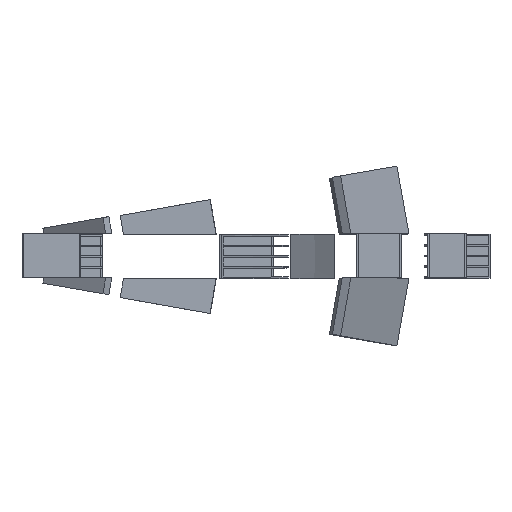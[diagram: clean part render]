
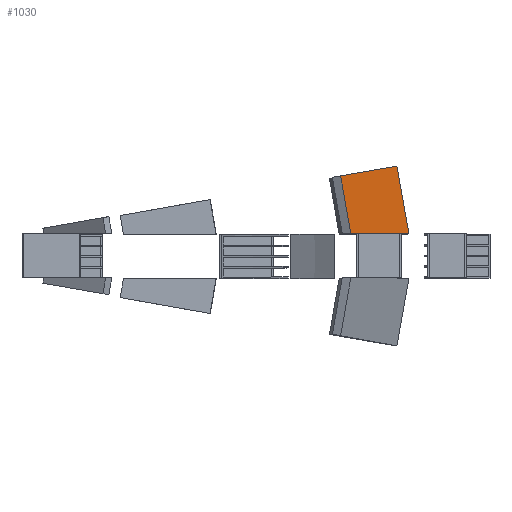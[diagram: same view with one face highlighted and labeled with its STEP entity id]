
A CAD part, top view. The second image highlights one B-rep face of the part: STEP entity #1030.
In plain terms, the highlighted planar face has unit normal (0.863, 0.152, 0.482).
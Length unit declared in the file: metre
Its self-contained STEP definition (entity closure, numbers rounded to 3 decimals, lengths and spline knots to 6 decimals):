
#1030 = ADVANCED_FACE('',(#1031),#1044,.T.);
#1031 = FACE_BOUND('',#1032,.T.);
#1032 = EDGE_LOOP('',(#1033,#1065,#1090,#1115));
#1033 = ORIENTED_EDGE('',*,*,#1034,.F.);
#1034 = EDGE_CURVE('',#1035,#1037,#1039,.T.);
#1035 = VERTEX_POINT('',#1036);
#1036 = CARTESIAN_POINT('',(14.162439,0.67455,5.219307));
#1037 = VERTEX_POINT('',#1038);
#1038 = CARTESIAN_POINT('',(13.850744,2.44226,
    5.219307));
#1039 = SURFACE_CURVE('',#1040,(#1043,#1054),.PCURVE_S1.);
#1040 = B_SPLINE_CURVE_WITH_KNOTS('',1,(#1041,#1042),.UNSPECIFIED.,.F.,
  .F.,(2,2),(0.,1.926396),.PIECEWISE_BEZIER_KNOTS.);
#1041 = CARTESIAN_POINT('',(14.162439,0.67455,5.219307));
#1042 = CARTESIAN_POINT('',(13.850744,2.44226,
    5.219307));
#1043 = PCURVE('',#1044,#1049);
#1044 = PLANE('',#1045);
#1045 = AXIS2_PLACEMENT_3D('',#1046,#1047,#1048);
#1046 = CARTESIAN_POINT('',(14.880918,1.634309,
    3.632197));
#1047 = DIRECTION('',(0.863,0.152,0.482));
#1048 = DIRECTION('',(0.485,0.025,-0.874)
  );
#1049 = DEFINITIONAL_REPRESENTATION('',(#1050),#1053);
#1050 = B_SPLINE_CURVE_WITH_KNOTS('',1,(#1051,#1052),.UNSPECIFIED.,.F.,
  .F.,(2,2),(0.,1.926396),.PIECEWISE_BEZIER_KNOTS.);
#1051 = CARTESIAN_POINT('',(-1.76,-0.927));
#1052 = CARTESIAN_POINT('',(-1.867,0.865));
#1053 = ( GEOMETRIC_REPRESENTATION_CONTEXT(2) 
PARAMETRIC_REPRESENTATION_CONTEXT() REPRESENTATION_CONTEXT('2D SPACE',''
  ) );
#1054 = PCURVE('',#1055,#1060);
#1055 = PLANE('',#1056);
#1056 = AXIS2_PLACEMENT_3D('',#1057,#1058,#1059);
#1057 = CARTESIAN_POINT('',(13.877652,1.547211,
    5.146083));
#1058 = DIRECTION('',(-0.486,-0.086,0.87
    ));
#1059 = DIRECTION('',(0.856,0.153,0.494));
#1060 = DEFINITIONAL_REPRESENTATION('',(#1061),#1064);
#1061 = B_SPLINE_CURVE_WITH_KNOTS('',1,(#1062,#1063),.UNSPECIFIED.,.F.,
  .F.,(2,2),(0.,1.926396),.PIECEWISE_BEZIER_KNOTS.);
#1062 = CARTESIAN_POINT('',(0.146,-0.909));
#1063 = CARTESIAN_POINT('',(0.15,0.886));
#1064 = ( GEOMETRIC_REPRESENTATION_CONTEXT(2) 
PARAMETRIC_REPRESENTATION_CONTEXT() REPRESENTATION_CONTEXT('2D SPACE',''
  ) );
#1065 = ORIENTED_EDGE('',*,*,#1066,.T.);
#1066 = EDGE_CURVE('',#1035,#1067,#1069,.T.);
#1067 = VERTEX_POINT('',#1068);
#1068 = CARTESIAN_POINT('',(15.937859,0.67455,2.045087));
#1069 = SURFACE_CURVE('',#1070,(#1073,#1079),.PCURVE_S1.);
#1070 = B_SPLINE_CURVE_WITH_KNOTS('',1,(#1071,#1072),.UNSPECIFIED.,.F.,
  .F.,(2,2),(0.,1.),.PIECEWISE_BEZIER_KNOTS.);
#1071 = CARTESIAN_POINT('',(14.162439,0.67455,5.219307));
#1072 = CARTESIAN_POINT('',(15.937859,0.67455,2.045087));
#1073 = PCURVE('',#1044,#1074);
#1074 = DEFINITIONAL_REPRESENTATION('',(#1075),#1078);
#1075 = B_SPLINE_CURVE_WITH_KNOTS('',1,(#1076,#1077),.UNSPECIFIED.,.F.,
  .F.,(2,2),(0.,1.),.PIECEWISE_BEZIER_KNOTS.);
#1076 = CARTESIAN_POINT('',(-1.76,-0.927));
#1077 = CARTESIAN_POINT('',(1.876,-1.018));
#1078 = ( GEOMETRIC_REPRESENTATION_CONTEXT(2) 
PARAMETRIC_REPRESENTATION_CONTEXT() REPRESENTATION_CONTEXT('2D SPACE',''
  ) );
#1079 = PCURVE('',#1080,#1085);
#1080 = PLANE('',#1081);
#1081 = AXIS2_PLACEMENT_3D('',#1082,#1083,#1084);
#1082 = CARTESIAN_POINT('',(14.919235,0.67455,3.558973));
#1083 = DIRECTION('',(0.,1.,0.));
#1084 = DIRECTION('',(0.,-0.,1.));
#1085 = DEFINITIONAL_REPRESENTATION('',(#1086),#1089);
#1086 = B_SPLINE_CURVE_WITH_KNOTS('',1,(#1087,#1088),.UNSPECIFIED.,.F.,
  .F.,(2,2),(0.,1.),.PIECEWISE_BEZIER_KNOTS.);
#1087 = CARTESIAN_POINT('',(1.66,-0.757));
#1088 = CARTESIAN_POINT('',(-1.514,1.019));
#1089 = ( GEOMETRIC_REPRESENTATION_CONTEXT(2) 
PARAMETRIC_REPRESENTATION_CONTEXT() REPRESENTATION_CONTEXT('2D SPACE',''
  ) );
#1090 = ORIENTED_EDGE('',*,*,#1091,.T.);
#1091 = EDGE_CURVE('',#1067,#1092,#1094,.T.);
#1092 = VERTEX_POINT('',#1093);
#1093 = CARTESIAN_POINT('',(15.572628,2.745874,2.045087
    ));
#1094 = SURFACE_CURVE('',#1095,(#1098,#1104),.PCURVE_S1.);
#1095 = B_SPLINE_CURVE_WITH_KNOTS('',1,(#1096,#1097),.UNSPECIFIED.,.F.,
  .F.,(2,2),(0.,1.926396),.PIECEWISE_BEZIER_KNOTS.);
#1096 = CARTESIAN_POINT('',(15.937859,0.67455,2.045087));
#1097 = CARTESIAN_POINT('',(15.572628,2.745874,2.045087
    ));
#1098 = PCURVE('',#1044,#1099);
#1099 = DEFINITIONAL_REPRESENTATION('',(#1100),#1103);
#1100 = B_SPLINE_CURVE_WITH_KNOTS('',1,(#1101,#1102),.UNSPECIFIED.,.F.,
  .F.,(2,2),(0.,1.926396),.PIECEWISE_BEZIER_KNOTS.);
#1101 = CARTESIAN_POINT('',(1.876,-1.018));
#1102 = CARTESIAN_POINT('',(1.75,1.081));
#1103 = ( GEOMETRIC_REPRESENTATION_CONTEXT(2) 
PARAMETRIC_REPRESENTATION_CONTEXT() REPRESENTATION_CONTEXT('2D SPACE',''
  ) );
#1104 = PCURVE('',#1105,#1110);
#1105 = PLANE('',#1106);
#1106 = AXIS2_PLACEMENT_3D('',#1107,#1108,#1109);
#1107 = CARTESIAN_POINT('',(15.626304,1.699018,1.971863
    ));
#1108 = DIRECTION('',(0.486,0.086,-0.87)
  );
#1109 = DIRECTION('',(-0.856,-0.153,-0.494));
#1110 = DEFINITIONAL_REPRESENTATION('',(#1111),#1114);
#1111 = B_SPLINE_CURVE_WITH_KNOTS('',1,(#1112,#1113),.UNSPECIFIED.,.F.,
  .F.,(2,2),(0.,1.926396),.PIECEWISE_BEZIER_KNOTS.);
#1112 = CARTESIAN_POINT('',(-0.147,-1.063));
#1113 = CARTESIAN_POINT('',(-0.15,1.04));
#1114 = ( GEOMETRIC_REPRESENTATION_CONTEXT(2) 
PARAMETRIC_REPRESENTATION_CONTEXT() REPRESENTATION_CONTEXT('2D SPACE',''
  ) );
#1115 = ORIENTED_EDGE('',*,*,#1116,.F.);
#1116 = EDGE_CURVE('',#1037,#1092,#1117,.T.);
#1117 = SURFACE_CURVE('',#1118,(#1121,#1127),.PCURVE_S1.);
#1118 = B_SPLINE_CURVE_WITH_KNOTS('',1,(#1119,#1120),.UNSPECIFIED.,.F.,
  .F.,(2,2),(0.,1.),.PIECEWISE_BEZIER_KNOTS.);
#1119 = CARTESIAN_POINT('',(13.850744,2.44226,
    5.219307));
#1120 = CARTESIAN_POINT('',(15.572628,2.745874,2.045087
    ));
#1121 = PCURVE('',#1044,#1122);
#1122 = DEFINITIONAL_REPRESENTATION('',(#1123),#1126);
#1123 = B_SPLINE_CURVE_WITH_KNOTS('',1,(#1124,#1125),.UNSPECIFIED.,.F.,
  .F.,(2,2),(0.,1.),.PIECEWISE_BEZIER_KNOTS.);
#1124 = CARTESIAN_POINT('',(-1.867,0.865));
#1125 = CARTESIAN_POINT('',(1.75,1.081));
#1126 = ( GEOMETRIC_REPRESENTATION_CONTEXT(2) 
PARAMETRIC_REPRESENTATION_CONTEXT() REPRESENTATION_CONTEXT('2D SPACE',''
  ) );
#1127 = PCURVE('',#1128,#1133);
#1128 = PLANE('',#1129);
#1129 = AXIS2_PLACEMENT_3D('',#1130,#1131,#1132);
#1130 = CARTESIAN_POINT('',(14.58472,2.57168,
    3.558973));
#1131 = DIRECTION('',(-0.174,0.985,0.));
#1132 = DIRECTION('',(0.985,0.174,0.));
#1133 = DEFINITIONAL_REPRESENTATION('',(#1134),#1137);
#1134 = B_SPLINE_CURVE_WITH_KNOTS('',1,(#1135,#1136),.UNSPECIFIED.,.F.,
  .F.,(2,2),(0.,1.),.PIECEWISE_BEZIER_KNOTS.);
#1135 = CARTESIAN_POINT('',(-0.745,-1.66));
#1136 = CARTESIAN_POINT('',(1.003,1.514));
#1137 = ( GEOMETRIC_REPRESENTATION_CONTEXT(2) 
PARAMETRIC_REPRESENTATION_CONTEXT() REPRESENTATION_CONTEXT('2D SPACE',''
  ) );
